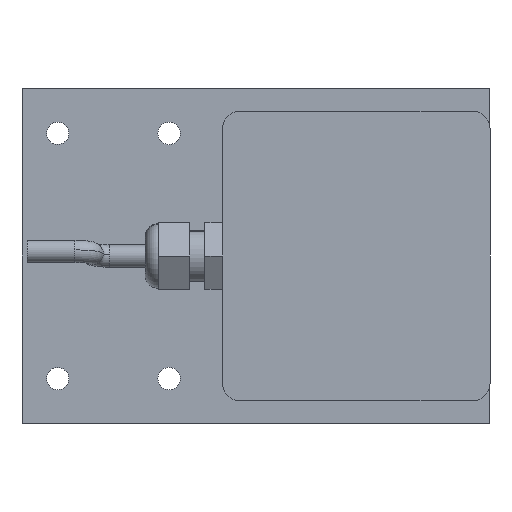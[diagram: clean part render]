
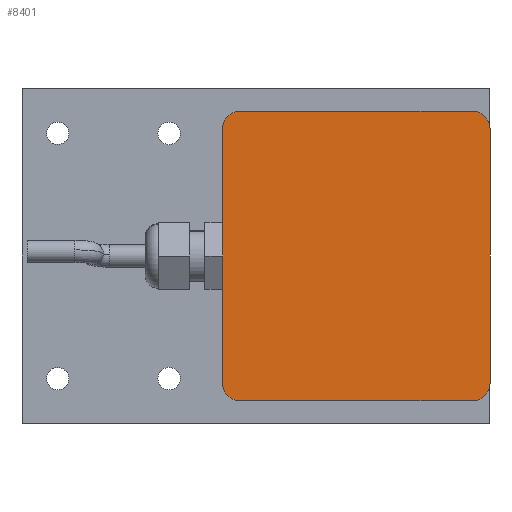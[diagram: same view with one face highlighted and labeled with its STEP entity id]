
A CAD part, left-side view. The second image highlights one B-rep face of the part: STEP entity #8401.
In plain terms, the highlighted planar face has unit normal (-1, 0, 0) as drawn and (0, 1, 0) by its records, which use the part's own axes.
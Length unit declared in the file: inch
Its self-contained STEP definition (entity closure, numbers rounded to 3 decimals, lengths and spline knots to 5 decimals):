
#119 = LINE ( 'NONE', #5173, #1686 ) ;
#138 = CARTESIAN_POINT ( 'NONE',  ( -1.3, 2.125, 1.425 ) ) ;
#268 = CIRCLE ( 'NONE', #9536, 0.2 ) ;
#782 = AXIS2_PLACEMENT_3D ( 'NONE', #8608, #13682, #2317 ) ;
#1013 = EDGE_CURVE ( 'NONE', #8979, #7235, #119, .T. ) ;
#1165 = CARTESIAN_POINT ( 'NONE',  ( 1.3, 2.125, -1.625 ) ) ;
#1220 = DIRECTION ( 'NONE',  ( 0., 0., 1. ) ) ;
#1288 = DIRECTION ( 'NONE',  ( 0., 0., 1. ) ) ;
#1314 = EDGE_CURVE ( 'NONE', #4567, #3763, #3427, .T. ) ;
#1686 = VECTOR ( 'NONE', #10228, 39.37008 ) ;
#2317 = DIRECTION ( 'NONE',  ( 0., 0., 1. ) ) ;
#2549 = PLANE ( 'NONE',  #6316 ) ;
#2634 = EDGE_CURVE ( 'NONE', #3078, #14191, #15451, .T. ) ;
#2845 = CARTESIAN_POINT ( 'NONE',  ( -1.3, 2.125, -1.425 ) ) ;
#3078 = VERTEX_POINT ( 'NONE', #12412 ) ;
#3372 = CARTESIAN_POINT ( 'NONE',  ( -1.3, 2.125, 1.625 ) ) ;
#3427 = LINE ( 'NONE', #8477, #4079 ) ;
#3485 = CARTESIAN_POINT ( 'NONE',  ( -1.5, 2.125, -1.425 ) ) ;
#3763 = VERTEX_POINT ( 'NONE', #7643 ) ;
#3837 = EDGE_CURVE ( 'NONE', #14191, #16131, #15305, .T. ) ;
#3904 = CARTESIAN_POINT ( 'NONE',  ( 1.5, 2.125, 1.425 ) ) ;
#4079 = VECTOR ( 'NONE', #13550, 39.37008 ) ;
#4471 = CIRCLE ( 'NONE', #14262, 0.2 ) ;
#4567 = VERTEX_POINT ( 'NONE', #3485 ) ;
#4886 = CARTESIAN_POINT ( 'NONE',  ( 1.5, 2.125, -1.425 ) ) ;
#4989 = VECTOR ( 'NONE', #8419, 39.37008 ) ;
#5173 = CARTESIAN_POINT ( 'NONE',  ( -1.3, 2.125, -1.625 ) ) ;
#5191 = DIRECTION ( 'NONE',  ( 0., 1., 0. ) ) ;
#5818 = CARTESIAN_POINT ( 'NONE',  ( -1.3, 2.125, -1.625 ) ) ;
#6316 = AXIS2_PLACEMENT_3D ( 'NONE', #7601, #12660, #1288 ) ;
#6366 = EDGE_LOOP ( 'NONE', ( #9181, #15402, #16354, #9408, #12212, #15071, #10737, #10565 ) ) ;
#6931 = AXIS2_PLACEMENT_3D ( 'NONE', #7523, #12592, #1220 ) ;
#7235 = VERTEX_POINT ( 'NONE', #5818 ) ;
#7523 = CARTESIAN_POINT ( 'NONE',  ( 1.3, 2.125, 1.425 ) ) ;
#7544 = CARTESIAN_POINT ( 'NONE',  ( 1.5, 2.125, 1.425 ) ) ;
#7601 = CARTESIAN_POINT ( 'NONE',  ( -1.3, 2.125, 1.425 ) ) ;
#7643 = CARTESIAN_POINT ( 'NONE',  ( -1.5, 2.125, 1.425 ) ) ;
#7894 = DIRECTION ( 'NONE',  ( 0., 1., 0. ) ) ;
#7933 = CIRCLE ( 'NONE', #782, 0.2 ) ;
#8401 = ADVANCED_FACE ( 'NONE', ( #13910 ), #2549, .T. ) ;
#8419 = DIRECTION ( 'NONE',  ( 1., 0., 0. ) ) ;
#8462 = EDGE_CURVE ( 'NONE', #3763, #12675, #4471, .T. ) ;
#8477 = CARTESIAN_POINT ( 'NONE',  ( -1.5, 2.125, 1.425 ) ) ;
#8608 = CARTESIAN_POINT ( 'NONE',  ( 1.3, 2.125, -1.425 ) ) ;
#8961 = DIRECTION ( 'NONE',  ( 0., 0., -1. ) ) ;
#8979 = VERTEX_POINT ( 'NONE', #1165 ) ;
#9181 = ORIENTED_EDGE ( 'NONE', *, *, #8462, .T. ) ;
#9408 = ORIENTED_EDGE ( 'NONE', *, *, #3837, .T. ) ;
#9536 = AXIS2_PLACEMENT_3D ( 'NONE', #2845, #7894, #12962 ) ;
#10228 = DIRECTION ( 'NONE',  ( -1., 0., 0. ) ) ;
#10245 = DIRECTION ( 'NONE',  ( 0., 0., 1. ) ) ;
#10565 = ORIENTED_EDGE ( 'NONE', *, *, #1314, .T. ) ;
#10621 = CARTESIAN_POINT ( 'NONE',  ( -1.3, 2.125, 1.625 ) ) ;
#10737 = ORIENTED_EDGE ( 'NONE', *, *, #12047, .T. ) ;
#12047 = EDGE_CURVE ( 'NONE', #7235, #4567, #268, .T. ) ;
#12212 = ORIENTED_EDGE ( 'NONE', *, *, #15214, .T. ) ;
#12412 = CARTESIAN_POINT ( 'NONE',  ( 1.3, 2.125, 1.625 ) ) ;
#12592 = DIRECTION ( 'NONE',  ( 0., 1., 0. ) ) ;
#12660 = DIRECTION ( 'NONE',  ( 0., 1., 0. ) ) ;
#12675 = VERTEX_POINT ( 'NONE', #10621 ) ;
#12962 = DIRECTION ( 'NONE',  ( 0., 0., -1. ) ) ;
#13550 = DIRECTION ( 'NONE',  ( 0., 0., 1. ) ) ;
#13655 = EDGE_CURVE ( 'NONE', #12675, #3078, #14752, .T. ) ;
#13682 = DIRECTION ( 'NONE',  ( 0., 1., 0. ) ) ;
#13910 = FACE_OUTER_BOUND ( 'NONE', #6366, .T. ) ;
#14191 = VERTEX_POINT ( 'NONE', #7544 ) ;
#14262 = AXIS2_PLACEMENT_3D ( 'NONE', #138, #5191, #10245 ) ;
#14752 = LINE ( 'NONE', #3372, #4989 ) ;
#15071 = ORIENTED_EDGE ( 'NONE', *, *, #1013, .T. ) ;
#15214 = EDGE_CURVE ( 'NONE', #16131, #8979, #7933, .T. ) ;
#15305 = LINE ( 'NONE', #3904, #15437 ) ;
#15402 = ORIENTED_EDGE ( 'NONE', *, *, #13655, .T. ) ;
#15437 = VECTOR ( 'NONE', #8961, 39.37008 ) ;
#15451 = CIRCLE ( 'NONE', #6931, 0.2 ) ;
#16131 = VERTEX_POINT ( 'NONE', #4886 ) ;
#16354 = ORIENTED_EDGE ( 'NONE', *, *, #2634, .T. ) ;
